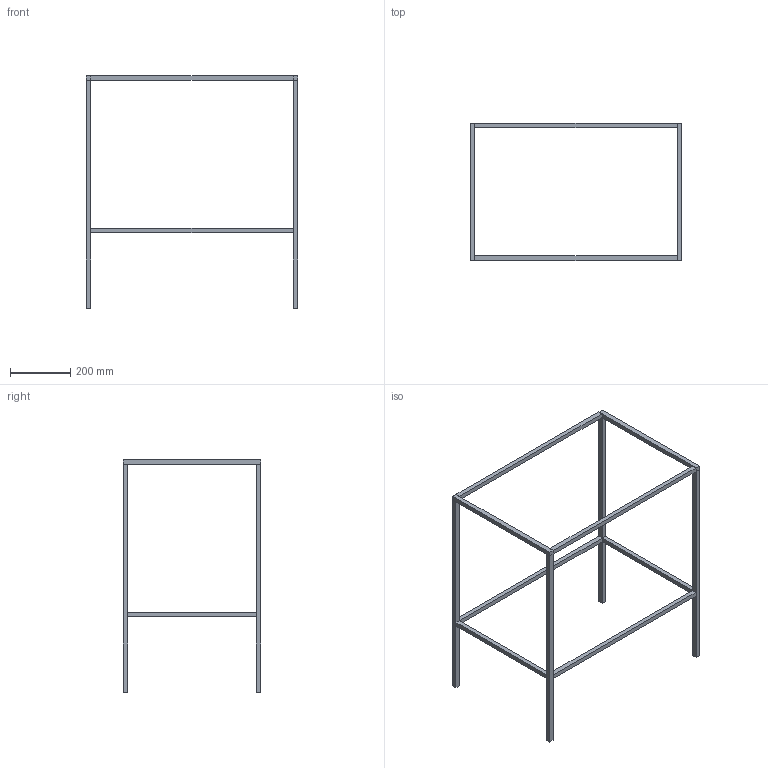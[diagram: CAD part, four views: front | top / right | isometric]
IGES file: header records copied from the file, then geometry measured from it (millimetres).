
Start section: START RECORD GO HERE.
Global section: file name: 8912_3D.igs; native system: DASSAULT SYSTEMES CATIA V5 R19 - www.3ds.com; preprocessor: CATIA Version 5 Release 19 SP 5 ; author: gioge; organization: LAPTOP-G94B6G74; date: 20201024.131921; units: millimetre
Bounding box: 700 x 455 x 770 mm (x, y, z)
Surface area: 453000 mm2 (no closed solid volume)
Topology: 0 solids, 0 shells, 72 faces, 288 edges, 288 vertices
Faces by surface type: plane 72
